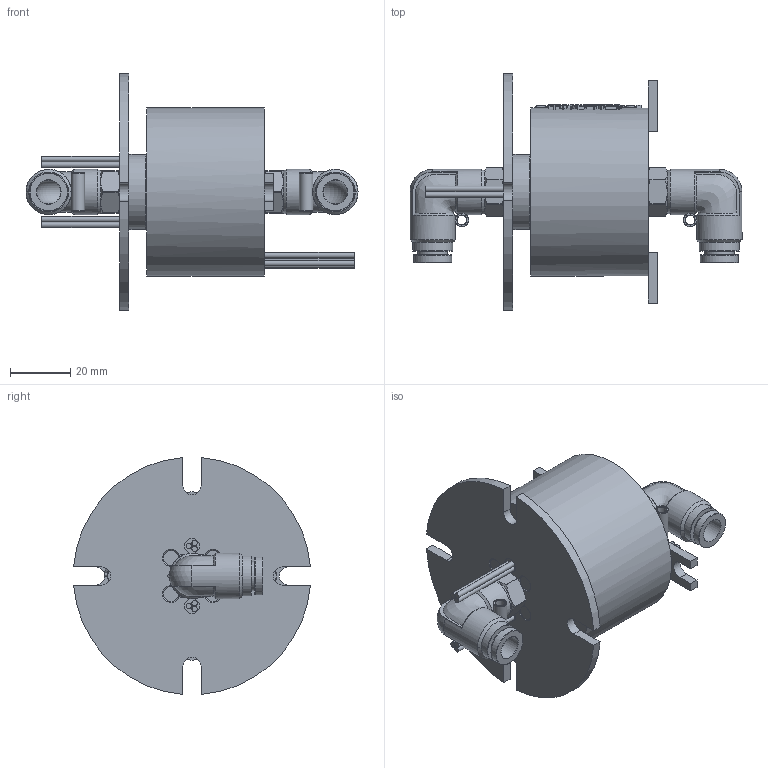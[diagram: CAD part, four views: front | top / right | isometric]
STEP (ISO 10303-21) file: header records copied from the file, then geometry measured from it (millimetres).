
FILE_DESCRIPTION(/* description */ (''),/* implementation_level */ '2;1');
FILE_NAME(/* name */ 'HQD1256-0610-D801-3D模型.stp',/* time_stamp */ '2025-09-17T17:49:14+08:00',/* author */ (''),/* organization */ (''),/* preprocessor_version */ 'ST-DEVELOPER v16.7',/* originating_system */ 'SIEMENS PLM Software NX 12.0',/* authorisation */ '');
FILE_SCHEMA (('AUTOMOTIVE_DESIGN { 1 0 10303 214 3 1 1 1 }'));
Length unit declared in the file: millimetre
Products named in the file (1): Admi06ACA856piuw
Bounding box: 110.5 x 78.77 x 78.77 mm (x, y, z)
Volume: 125823.1 mm3; surface area: 32843 mm2
Topology: 1 solids, 1 shells, 521 faces, 1282 edges, 829 vertices
Faces by surface type: plane 260, cylinder 96, extrusion 57, cone 55, bspline 29, torus 22, sphere 2
Full cylindrical faces by diameter (mm): 1.8 x12, 3.15 x2, 4.5 x2, 5 x14, 5.837 x2, 8 x4, 9.8 x2, 12.6 x2, 13.3 x2, 15.098 x4, 25 x1, 56 x1
Entity records: 27773 total; most frequent: CARTESIAN_POINT 16899, ORIENTED_EDGE 2320, DIRECTION 1841, EDGE_CURVE 1160, VERTEX_POINT 797, AXIS2_PLACEMENT_3D 733, EDGE_LOOP 685, B_SPLINE_CURVE_WITH_KNOTS 585
